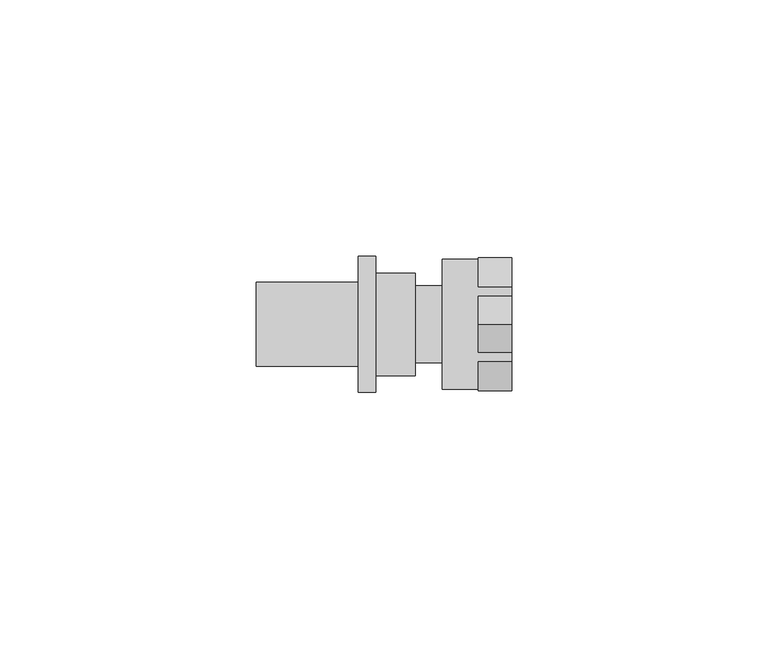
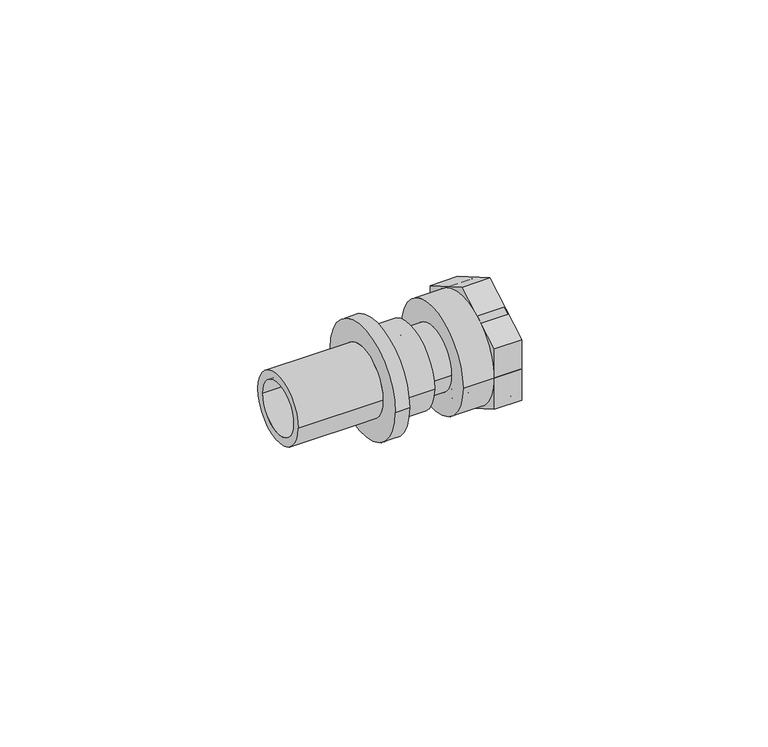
"""IFC4 building model written with IfcOpenShell, lengths in millimetres: pipe fitting geometry, REHAU_RAUTITAN_Adaptor_RX+_union nut : REHAU_RAUTITAN_Adaptor_RX+_union nut."""

from ifc_helpers import new_model, si_unit, point, frame, origin, origin_2d, place, context, project, spatial, polyline, circle_curve, trimmed, segment, composite_curve, outline, extrude, source, transform, mapped, element, save
from ifc_brep_helpers import plane_surface, cylinder_surface, revolved_surface, advanced_brep


def pipe_fitting_abff8b8d(model_context):
    return source(origin(), model_context, "Body", "SolidModel", [
        advanced_brep(
        [(0.0, 10.0, 0.0), (0.0, -10.0, 0.0), (-7.74, -10.0, 0.0), (-7.74, 10.0, 0.0), (-31.0, 6.25, 0.0), (-31.0, -6.25, 0.0), (0.0, -6.25, 0.0), (0.0, 6.25, 0.0), (-11.09, 8.225, 0.0), (-11.09, -8.225, 0.0), (-31.0, -8.225, 0.0), (-31.0, 8.225, 0.0), (-7.74, 13.25, 0.0), (-7.74, -13.25, 0.0), (-11.09, -13.25, 0.0), (-11.09, 13.25, 0.0)],
        [
            (0, 1, circle_curve(frame((0.0, 0.0, 0.0), z_axis=(-1.0, 0.0, 0.0), x_axis=(0.0, -1.0, 0.0)), 10.0)),
            (1, 2),
            (2, 3, circle_curve(frame((-7.74, 0.0, 0.0), z_axis=(1.0, 0.0, 0.0), x_axis=(0.0, -1.0, 0.0)), 10.0)),
            (3, 0),
            (4, 5, circle_curve(frame((-31.0, 0.0, 0.0), z_axis=(-1.0, 0.0, 0.0), x_axis=(0.0, -1.0, 0.0)), 6.25)),
            (5, 6),
            (6, 7, circle_curve(frame((0.0, 0.0, 0.0), z_axis=(1.0, 0.0, 0.0), x_axis=(0.0, -1.0, 0.0)), 6.25)),
            (7, 4),
            (8, 9, circle_curve(frame((-11.09, 0.0, 0.0), z_axis=(-1.0, 0.0, 0.0), x_axis=(0.0, -1.0, 0.0)), 8.225)),
            (9, 10),
            (10, 11, circle_curve(frame((-31.0, 0.0, 0.0), z_axis=(1.0, 0.0, 0.0), x_axis=(0.0, -1.0, 0.0)), 8.225)),
            (11, 8),
            (12, 13, circle_curve(frame((-7.74, 0.0, 0.0), z_axis=(-1.0, 0.0, 0.0), x_axis=(0.0, -1.0, 0.0)), 13.25)),
            (13, 14),
            (14, 15, circle_curve(frame((-11.09, 0.0, 0.0), z_axis=(1.0, 0.0, 0.0), x_axis=(0.0, -1.0, 0.0)), 13.25)),
            (15, 12),
            (1, 0, circle_curve(frame((0.0, 0.0, 0.0), z_axis=(-1.0, 0.0, 0.0), x_axis=(0.0, 1.0, 0.0)), 10.0)),
            (3, 2, circle_curve(frame((-7.74, 0.0, 0.0), z_axis=(1.0, 0.0, 0.0), x_axis=(0.0, 1.0, 0.0)), 10.0)),
            (6, 7, circle_curve(frame((0.0, 0.0, 0.0), z_axis=(-1.0, 0.0, 0.0), x_axis=(0.0, 1.0, 0.0)), 6.25)),
            (5, 4, circle_curve(frame((-31.0, 0.0, 0.0), z_axis=(-1.0, 0.0, 0.0), x_axis=(0.0, 1.0, 0.0)), 6.25)),
            (10, 11, circle_curve(frame((-31.0, 0.0, 0.0), z_axis=(-1.0, 0.0, 0.0), x_axis=(0.0, 1.0, 0.0)), 8.225)),
            (9, 8, circle_curve(frame((-11.09, 0.0, 0.0), z_axis=(-1.0, 0.0, 0.0), x_axis=(0.0, 1.0, 0.0)), 8.225)),
            (14, 15, circle_curve(frame((-11.09, 0.0, 0.0), z_axis=(-1.0, 0.0, 0.0), x_axis=(0.0, 1.0, 0.0)), 13.25)),
            (13, 12, circle_curve(frame((-7.74, 0.0, 0.0), z_axis=(-1.0, 0.0, 0.0), x_axis=(0.0, 1.0, 0.0)), 13.25)),
        ],
        [
            cylinder_surface(frame((0.0, 0.0, 0.0), z_axis=(1.0, 0.0, 0.0), x_axis=(0.0, -1.0, 0.0)), 10.0),
            revolved_surface(polyline([(0.0, -6.25, 0.0), (-31.0, -6.25, 0.0)]), (0.0, 0.0, 0.0), (1.0, 0.0, 0.0)),
            cylinder_surface(frame((0.0, 0.0, 0.0), z_axis=(1.0, 0.0, 0.0), x_axis=(0.0, -1.0, 0.0)), 8.225),
            cylinder_surface(frame((0.0, 0.0, 0.0), z_axis=(1.0, 0.0, 0.0), x_axis=(0.0, -1.0, 0.0)), 13.25),
            cylinder_surface(frame((0.0, 0.0, 0.0), z_axis=(1.0, 0.0, 0.0), x_axis=(0.0, 1.0, 0.0)), 10.0),
            plane_surface(frame((0.0, 0.0, 0.0), z_axis=(1.0, 0.0, 0.0), x_axis=(0.0, 1.0, 0.0))),
            revolved_surface(polyline([(0.0, 6.25, 0.0), (-31.0, 6.25, 0.0)]), (0.0, 0.0, 0.0), (1.0, 0.0, 0.0)),
            plane_surface(frame((-31.0, 0.0, 0.0), z_axis=(-1.0, 0.0, 0.0), x_axis=(0.0, 1.0, 0.0))),
            cylinder_surface(frame((0.0, 0.0, 0.0), z_axis=(1.0, 0.0, 0.0), x_axis=(0.0, 1.0, 0.0)), 8.225),
            plane_surface(frame((-11.09, 0.0, 0.0), z_axis=(-1.0, 0.0, 0.0), x_axis=(0.0, 1.0, 0.0))),
            cylinder_surface(frame((0.0, 0.0, 0.0), z_axis=(1.0, 0.0, 0.0), x_axis=(0.0, 1.0, 0.0)), 13.25),
            plane_surface(frame((-7.74, 0.0, 0.0), z_axis=(1.0, 0.0, 0.0), x_axis=(0.0, 1.0, 0.0))),
        ],
        [
            (0, [[1, 2, 3, 4]]),
            (1, [[5, 6, 7, 8]]),
            (2, [[9, 10, 11, 12]]),
            (3, [[13, 14, 15, 16]]),
            (4, [[17, -4, 18, -2]]),
            (5, [[-17, -1], [19, -7]]),
            (6, [[20, -8, -19, -6]]),
            (7, [[21, -11], [-20, -5]]),
            (8, [[22, -12, -21, -10]]),
            (9, [[23, -15], [-22, -9]]),
            (10, [[24, -16, -23, -14]]),
            (11, [[-24, -13], [-18, -3]]),
        ],
    ),
        advanced_brep(
        [(7.0, 7.5, 0.0), (7.0, -7.5, 0.0), (0.0, -7.5, 0.0), (0.0, 7.5, 0.0), (10.0, 9.25, 0.0), (10.0, -9.25, 0.0), (7.0, -9.25, 0.0), (7.0, 9.25, 0.0), (1.4730817, 5.4, 0.0), (1.4730817, -5.4, 0.0), (10.0, -5.4, 0.0), (10.0, 5.4, 0.0), (0.0, 3.2264556, 0.0), (0.0, -3.2264556, 0.0), (1.4730817, -3.2264556, 0.0), (1.4730817, 3.2264556, 0.0)],
        [
            (0, 1, circle_curve(frame((7.0, 0.0, 0.0), z_axis=(-1.0, 0.0, 0.0), x_axis=(0.0, -1.0, 0.0)), 7.5)),
            (1, 2),
            (2, 3, circle_curve(frame((0.0, 0.0, 0.0), z_axis=(1.0, 0.0, 0.0), x_axis=(0.0, -1.0, 0.0)), 7.5)),
            (3, 0),
            (4, 5, circle_curve(frame((10.0, 0.0, 0.0), z_axis=(-1.0, 0.0, 0.0), x_axis=(0.0, -1.0, 0.0)), 9.25)),
            (5, 6),
            (6, 7, circle_curve(frame((7.0, 0.0, 0.0), z_axis=(1.0, 0.0, 0.0), x_axis=(0.0, -1.0, 0.0)), 9.25)),
            (7, 4),
            (8, 9, circle_curve(frame((1.4730817, 0.0, 0.0), z_axis=(-1.0, 0.0, 0.0), x_axis=(0.0, -1.0, 0.0)), 5.4)),
            (9, 10),
            (10, 11, circle_curve(frame((10.0, 0.0, 0.0), z_axis=(1.0, 0.0, 0.0), x_axis=(0.0, -1.0, 0.0)), 5.4)),
            (11, 8),
            (2, 3, circle_curve(frame((0.0, 0.0, 0.0), z_axis=(-1.0, 0.0, 0.0), x_axis=(0.0, 1.0, 0.0)), 7.5)),
            (12, 13, circle_curve(frame((0.0, 0.0, 0.0), z_axis=(1.0, 0.0, 0.0), x_axis=(0.0, 1.0, 0.0)), 3.2264556)),
            (13, 12, circle_curve(frame((0.0, 0.0, 0.0), z_axis=(1.0, 0.0, 0.0), x_axis=(0.0, -1.0, 0.0)), 3.2264556)),
            (1, 0, circle_curve(frame((7.0, 0.0, 0.0), z_axis=(-1.0, 0.0, 0.0), x_axis=(0.0, 1.0, 0.0)), 7.5)),
            (6, 7, circle_curve(frame((7.0, 0.0, 0.0), z_axis=(-1.0, 0.0, 0.0), x_axis=(0.0, 1.0, 0.0)), 9.25)),
            (5, 4, circle_curve(frame((10.0, 0.0, 0.0), z_axis=(-1.0, 0.0, 0.0), x_axis=(0.0, 1.0, 0.0)), 9.25)),
            (10, 11, circle_curve(frame((10.0, 0.0, 0.0), z_axis=(-1.0, 0.0, 0.0), x_axis=(0.0, 1.0, 0.0)), 5.4)),
            (9, 8, circle_curve(frame((1.4730817, 0.0, 0.0), z_axis=(-1.0, 0.0, 0.0), x_axis=(0.0, 1.0, 0.0)), 5.4)),
            (13, 14),
            (14, 15, circle_curve(frame((1.4730817, 0.0, 0.0), z_axis=(1.0, 0.0, 0.0), x_axis=(0.0, -1.0, 0.0)), 3.2264556)),
            (15, 12),
            (14, 15, circle_curve(frame((1.4730817, 0.0, 0.0), z_axis=(-1.0, 0.0, 0.0), x_axis=(0.0, 1.0, 0.0)), 3.2264556)),
        ],
        [
            cylinder_surface(frame((0.0, 0.0, 0.0), z_axis=(1.0, 0.0, 0.0), x_axis=(0.0, -1.0, 0.0)), 7.5),
            cylinder_surface(frame((0.0, 0.0, 0.0), z_axis=(1.0, 0.0, 0.0), x_axis=(0.0, -1.0, 0.0)), 9.25),
            revolved_surface(polyline([(10.0, -5.4, 0.0), (1.4730817, -5.4, 0.0)]), (0.0, 0.0, 0.0), (1.0, 0.0, 0.0)),
            plane_surface(frame((0.0, 0.0, 0.0), z_axis=(-1.0, 0.0, 0.0), x_axis=(0.0, 1.0, 0.0))),
            cylinder_surface(frame((0.0, 0.0, 0.0), z_axis=(1.0, 0.0, 0.0), x_axis=(0.0, 1.0, 0.0)), 7.5),
            plane_surface(frame((7.0, 0.0, 0.0), z_axis=(-1.0, 0.0, 0.0), x_axis=(0.0, 1.0, 0.0))),
            cylinder_surface(frame((0.0, 0.0, 0.0), z_axis=(1.0, 0.0, 0.0), x_axis=(0.0, 1.0, 0.0)), 9.25),
            plane_surface(frame((10.0, 0.0, 0.0), z_axis=(1.0, 0.0, 0.0), x_axis=(0.0, 1.0, 0.0))),
            revolved_surface(polyline([(10.0, 5.4, 0.0), (1.4730817, 5.4, 0.0)]), (0.0, 0.0, 0.0), (1.0, 0.0, 0.0)),
            revolved_surface(polyline([(1.4730817, -3.2264556, 0.0), (0.0, -3.2264556, 0.0)]), (0.0, 0.0, 0.0), (1.0, 0.0, 0.0)),
            plane_surface(frame((1.4730817, 0.0, 0.0), z_axis=(1.0, 0.0, 0.0), x_axis=(0.0, 1.0, 0.0))),
            revolved_surface(polyline([(1.4730817, 3.2264556, 0.0), (0.0, 3.2264556, 0.0)]), (0.0, 0.0, 0.0), (1.0, 0.0, 0.0)),
        ],
        [
            (0, [[1, 2, 3, 4]]),
            (1, [[5, 6, 7, 8]]),
            (2, [[9, 10, 11, 12]]),
            (3, [[13, -3], [14, 15]]),
            (4, [[16, -4, -13, -2]]),
            (5, [[17, -7], [-16, -1]]),
            (6, [[18, -8, -17, -6]]),
            (7, [[-18, -5], [19, -11]]),
            (8, [[20, -12, -19, -10]]),
            (9, [[-15, 21, 22, 23]]),
            (10, [[-20, -9], [24, -22]]),
            (11, [[-14, -23, -24, -21]]),
        ],
    ),
        advanced_brep(
        [(18.8, 12.65, 0.0), (18.8, -12.65, 0.0), (5.3, -12.65, 0.0), (5.3, 12.65, 0.0), (7.0, 9.25, 0.0), (7.0, -9.25, 0.0), (18.8, -9.25, 0.0), (18.8, 9.25, 0.0), (5.3, 7.55, 0.0), (5.3, -7.55, 0.0), (7.0, -7.55, 0.0), (7.0, 7.55, 0.0)],
        [
            (0, 1, circle_curve(frame((18.8, 0.0, 0.0), z_axis=(-1.0, 0.0, 0.0), x_axis=(0.0, -1.0, 0.0)), 12.65)),
            (1, 2),
            (2, 3, circle_curve(frame((5.3, 0.0, 0.0), z_axis=(1.0, 0.0, 0.0), x_axis=(0.0, -1.0, 0.0)), 12.65)),
            (3, 0),
            (4, 5, circle_curve(frame((7.0, 0.0, 0.0), z_axis=(-1.0, 0.0, 0.0), x_axis=(0.0, -1.0, 0.0)), 9.25)),
            (5, 6),
            (6, 7, circle_curve(frame((18.8, 0.0, 0.0), z_axis=(1.0, 0.0, 0.0), x_axis=(0.0, -1.0, 0.0)), 9.25)),
            (7, 4),
            (8, 9, circle_curve(frame((5.3, 0.0, 0.0), z_axis=(-1.0, 0.0, 0.0), x_axis=(0.0, -1.0, 0.0)), 7.55)),
            (9, 10),
            (10, 11, circle_curve(frame((7.0, 0.0, 0.0), z_axis=(1.0, 0.0, 0.0), x_axis=(0.0, -1.0, 0.0)), 7.55)),
            (11, 8),
            (1, 0, circle_curve(frame((18.8, 0.0, 0.0), z_axis=(-1.0, 0.0, 0.0), x_axis=(0.0, 1.0, 0.0)), 12.65)),
            (3, 2, circle_curve(frame((5.3, 0.0, 0.0), z_axis=(1.0, 0.0, 0.0), x_axis=(0.0, 1.0, 0.0)), 12.65)),
            (6, 7, circle_curve(frame((18.8, 0.0, 0.0), z_axis=(-1.0, 0.0, 0.0), x_axis=(0.0, 1.0, 0.0)), 9.25)),
            (5, 4, circle_curve(frame((7.0, 0.0, 0.0), z_axis=(-1.0, 0.0, 0.0), x_axis=(0.0, 1.0, 0.0)), 9.25)),
            (10, 11, circle_curve(frame((7.0, 0.0, 0.0), z_axis=(-1.0, 0.0, 0.0), x_axis=(0.0, 1.0, 0.0)), 7.55)),
            (9, 8, circle_curve(frame((5.3, 0.0, 0.0), z_axis=(-1.0, 0.0, 0.0), x_axis=(0.0, 1.0, 0.0)), 7.55)),
        ],
        [
            cylinder_surface(frame((0.0, 0.0, 0.0), z_axis=(1.0, 0.0, 0.0), x_axis=(0.0, -1.0, 0.0)), 12.65),
            revolved_surface(polyline([(18.8, -9.25, 0.0), (7.0, -9.25, 0.0)]), (0.0, 0.0, 0.0), (1.0, 0.0, 0.0)),
            revolved_surface(polyline([(7.0, -7.55, 0.0), (5.3, -7.55, 0.0)]), (0.0, 0.0, 0.0), (1.0, 0.0, 0.0)),
            cylinder_surface(frame((0.0, 0.0, 0.0), z_axis=(1.0, 0.0, 0.0), x_axis=(0.0, 1.0, 0.0)), 12.65),
            plane_surface(frame((18.8, 0.0, 0.0), z_axis=(1.0, 0.0, 0.0), x_axis=(0.0, 1.0, 0.0))),
            revolved_surface(polyline([(18.8, 9.25, 0.0), (7.0, 9.25, 0.0)]), (0.0, 0.0, 0.0), (1.0, 0.0, 0.0)),
            plane_surface(frame((7.0, 0.0, 0.0), z_axis=(1.0, 0.0, 0.0), x_axis=(0.0, 1.0, 0.0))),
            revolved_surface(polyline([(7.0, 7.55, 0.0), (5.3, 7.55, 0.0)]), (0.0, 0.0, 0.0), (1.0, 0.0, 0.0)),
            plane_surface(frame((5.3, 0.0, 0.0), z_axis=(-1.0, 0.0, 0.0), x_axis=(0.0, 1.0, 0.0))),
        ],
        [
            (0, [[1, 2, 3, 4]]),
            (1, [[5, 6, 7, 8]]),
            (2, [[9, 10, 11, 12]]),
            (3, [[13, -4, 14, -2]]),
            (4, [[-13, -1], [15, -7]]),
            (5, [[16, -8, -15, -6]]),
            (6, [[-16, -5], [17, -11]]),
            (7, [[18, -12, -17, -10]]),
            (8, [[-14, -3], [-18, -9]]),
        ],
    ),
        extrude(outline(polyline([(0.0, -15.011107), (-13.0, -7.5055535), (-13.0, 7.5055535), (0.0, 15.011107), (13.0, 7.5055535), (13.0, -7.5055535), (0.0, -15.011107)]), holes=[composite_curve([segment(trimmed(circle_curve(origin_2d(), 12.65), [point((-12.65, 0.0))], [point((12.65, 0.0))], True, "CARTESIAN"), True, "CONTINUOUS"), segment(trimmed(circle_curve(origin_2d(), 12.65), [point((12.65, 0.0))], [point((-12.65, 0.0))], True, "CARTESIAN"), True, "CONTINUOUS")], self_intersect=False)]), frame((12.3, 0.0, 0.0), z_axis=(1.0, 0.0, 0.0), x_axis=(0.0, 1.0, 0.0)), (0.0, 0.0, 1.0), 6.5),
    ])


if __name__ == "__main__":
    model = new_model("IFC4")
    model_context = context("Model", 3, world=origin())
    ifc_project = project(units=[si_unit("LENGTHUNIT", "METRE", prefix="MILLI")], contexts=[model_context])
    site = spatial("IfcSite", under=ifc_project)
    building = spatial("IfcBuilding", under=site)
    placement = place(None, origin())
    pipe_fitting_shape = pipe_fitting_abff8b8d(model_context)
    element("IfcPipeFitting", 1, ObjectType="REHAU_RAUTITAN_Adaptor_RX+_union nut : REHAU_RAUTITAN_Adaptor_RX+_union nut", at=placement, inside=building, context=model_context, shape_type="MappedRepresentation", body=[
        mapped(pipe_fitting_shape, transform((0.0, 0.0, 0.0), x_axis=(1.0, 0.0, 0.0), y_axis=(0.0, 1.0, 0.0), z_axis=(0.0, 0.0, 1.0))),
    ])
    save(model, "model.ifc")
